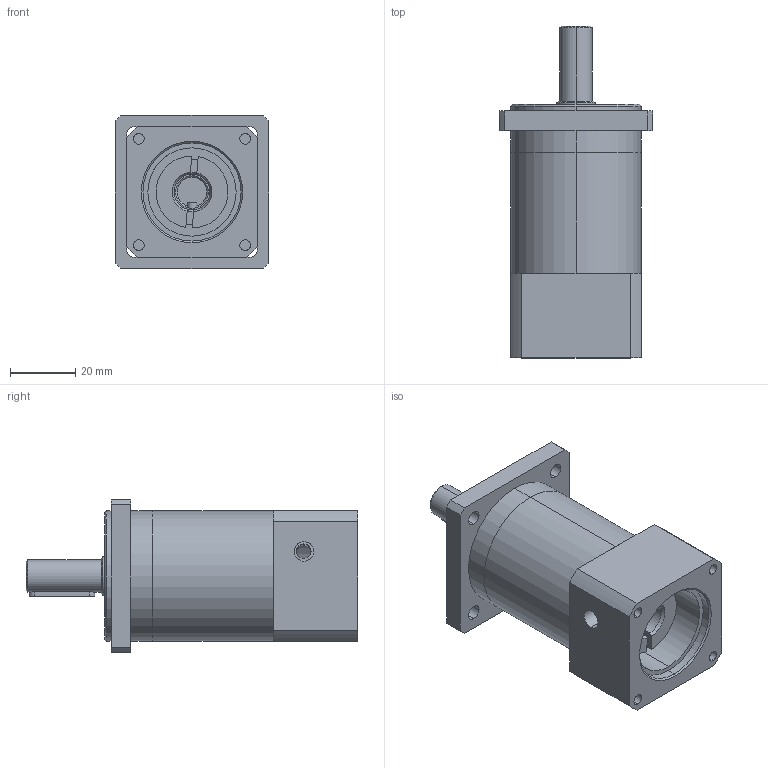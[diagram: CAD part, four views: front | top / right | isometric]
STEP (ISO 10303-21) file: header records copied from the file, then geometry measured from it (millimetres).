
FILE_DESCRIPTION (( 'STEP AP214' ), '1' );
FILE_NAME ('40源怀堤俋褲珨撰.STEP', '2017-04-27T05:19:20', ( '' ), ( '' ), 'SwSTEP 2.0', 'SolidWorks 2016', '' );
FILE_SCHEMA (( 'AUTOMOTIVE_DESIGN' ));
Length unit declared in the file: millimetre
Products named in the file (1): 40源怀堤俋褲珨撰
Bounding box: 47 x 101.5 x 47 mm (x, y, z)
Surface area: 21125.7 mm2 (no closed solid volume)
Topology: 0 solids, 7 shells, 89 faces, 257 edges, 175 vertices
Faces by surface type: cylinder 50, plane 28, cone 11
Entity records: 4216 total; most frequent: CARTESIAN_POINT 776, DIRECTION 546, ORIENTED_EDGE 456, EDGE_CURVE 257, AXIS2_PLACEMENT_3D 217, VERTEX_POINT 175, CIRCLE 127, EDGE_LOOP 115
